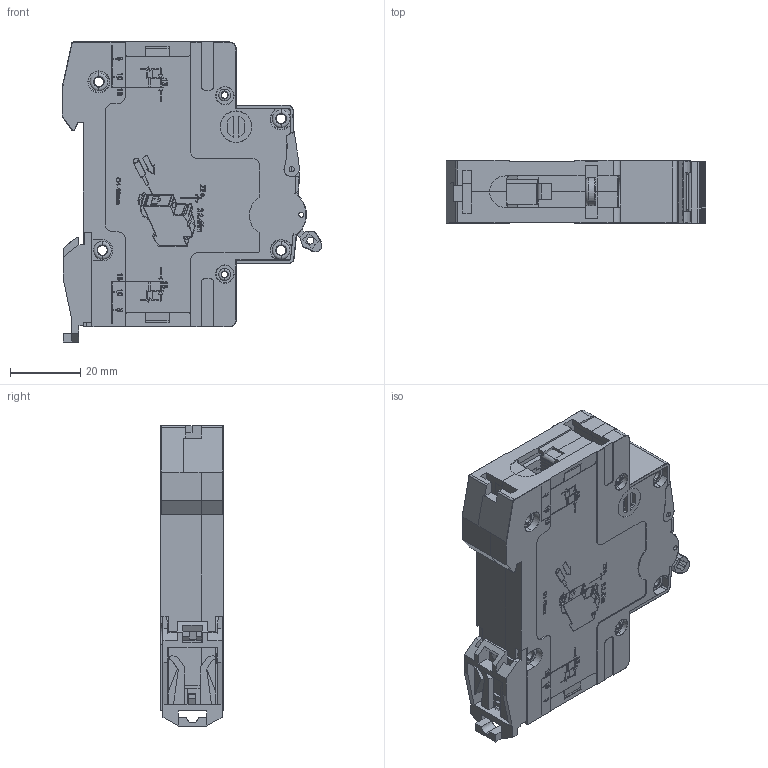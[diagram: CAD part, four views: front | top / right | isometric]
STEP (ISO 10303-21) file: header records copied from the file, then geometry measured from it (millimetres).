
FILE_DESCRIPTION (( 'STEP AP214' ), '1' );
FILE_NAME ('TDZ-1D-40.STEP', '2026-04-30T12:50:13', ( '' ), ( '' ), 'SwSTEP 2.0', 'SolidWorks 2025', '' );
FILE_SCHEMA (( 'AUTOMOTIVE_DESIGN' ));
Length unit declared in the file: millimetre
Products named in the file (1): TDZ-1D-40
Bounding box: 73.85 x 17.8 x 85.3 mm (x, y, z)
Volume: 30480.2 mm3; surface area: 48197.3 mm2
Topology: 21 solids, 21 shells, 4138 faces, 11941 edges, 8058 vertices
Faces by surface type: plane 2533, cylinder 995, bspline 403, torus 161, cone 46
Entity records: 210791 total; most frequent: CARTESIAN_POINT 60868, ORIENTED_EDGE 23858, DIRECTION 19597, EDGE_CURVE 11929, VERTEX_POINT 8058, LINE 7959, VECTOR 7959, AXIS2_PLACEMENT_3D 5819
